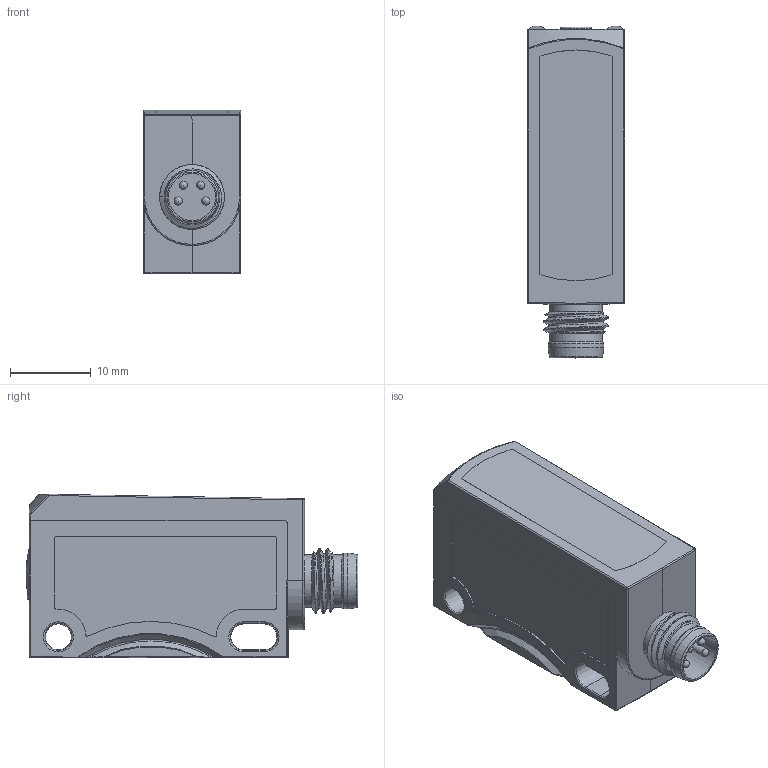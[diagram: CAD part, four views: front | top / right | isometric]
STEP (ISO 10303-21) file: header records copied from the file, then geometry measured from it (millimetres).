
FILE_DESCRIPTION(/* description */ (''),/* implementation_level */ '2;1');
FILE_NAME(/* name */ 'MP005847_00.stp',/* time_stamp */ '2015-07-21T09:51:25+02:00',/* author */ (''),/* organization */ (''),/* preprocessor_version */ 'ST-DEVELOPER v11',/* originating_system */ 'SIEMENS PLM Software NX 7.5',/* authorisation */ '');
FILE_SCHEMA (('AUTOMOTIVE_DESIGN { 1 0 10303 214 1 1 1 1 }'));
Length unit declared in the file: millimetre
Products named in the file (1): mbra08E1ttqa
Bounding box: 12 x 41 x 20.23 mm (x, y, z)
Surface area: 3569.3 mm2 (no closed solid volume)
Topology: 0 solids, 10 shells, 155 faces, 416 edges, 260 vertices
Faces by surface type: cylinder 62, plane 31, bspline 23, cone 16, torus 14, sphere 9
Full cylindrical faces by diameter (mm): 1 x4, 4.1 x1, 5.8 x1, 6.5 x2, 6.9 x1
Entity records: 6310 total; most frequent: CARTESIAN_POINT 2490, DIRECTION 701, ORIENTED_EDGE 669, EDGE_CURVE 380, AXIS2_PLACEMENT_3D 280, VERTEX_POINT 251, EDGE_LOOP 190, ADVANCED_FACE 155
